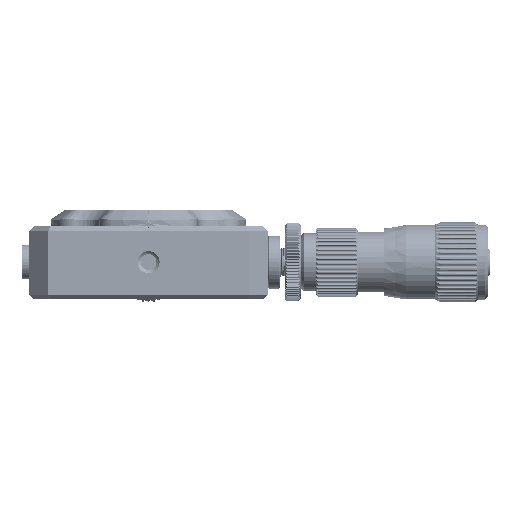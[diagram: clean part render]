
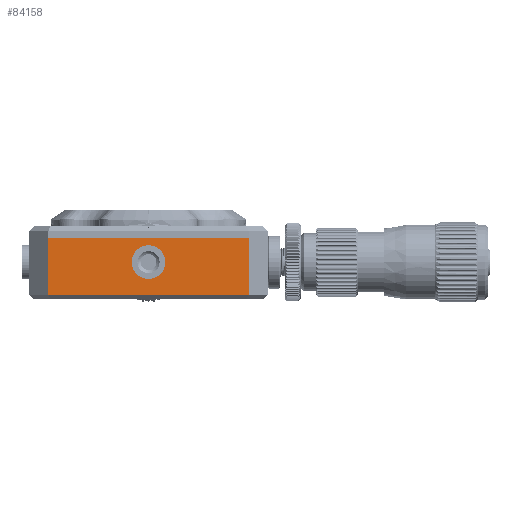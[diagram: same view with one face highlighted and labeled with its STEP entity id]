
A CAD part, front view. The second image highlights one B-rep face of the part: STEP entity #84158.
In plain terms, the highlighted planar face has unit normal (0, -1, 0).
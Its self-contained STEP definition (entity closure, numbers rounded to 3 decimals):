
#75450=DIRECTION('',(1.,0.,0.));
#75451=VECTOR('',#75450,41.53);
#75452=CARTESIAN_POINT('',(-20.765,-24.765,-5.35));
#75453=LINE('',#75452,#75451);
#75454=DIRECTION('',(0.,0.,-1.));
#75455=VECTOR('',#75454,11.7);
#75456=CARTESIAN_POINT('',(-20.765,-24.765,6.35));
#75457=LINE('',#75456,#75455);
#75458=DIRECTION('',(1.,0.,0.));
#75459=VECTOR('',#75458,41.53);
#75460=CARTESIAN_POINT('',(-20.765,-24.765,6.35));
#75461=LINE('',#75460,#75459);
#75462=DIRECTION('',(0.,0.,1.));
#75463=VECTOR('',#75462,11.7);
#75464=CARTESIAN_POINT('',(20.765,-24.765,-5.35));
#75465=LINE('',#75464,#75463);
#75466=CARTESIAN_POINT('',(0.,-24.765,1.397));
#75467=DIRECTION('',(0.,1.,0.));
#75468=DIRECTION('',(1.,0.,0.));
#75469=AXIS2_PLACEMENT_3D('',#75466,#75467,#75468);
#75471=CARTESIAN_POINT('',(0.,-24.765,1.397));
#75472=DIRECTION('',(0.,1.,0.));
#75473=DIRECTION('',(-1.,0.,0.));
#75474=AXIS2_PLACEMENT_3D('',#75471,#75472,#75473);
#83580=CARTESIAN_POINT('',(-20.765,-24.765,6.35));
#83582=VERTEX_POINT('',#83580);
#83583=CARTESIAN_POINT('',(20.765,-24.765,6.35));
#83585=VERTEX_POINT('',#83583);
#83599=CARTESIAN_POINT('',(-20.765,-24.765,-5.35));
#83601=VERTEX_POINT('',#83599);
#83605=CARTESIAN_POINT('',(20.765,-24.765,-5.35));
#83606=VERTEX_POINT('',#83605);
#84129=CARTESIAN_POINT('',(3.3,-24.765,1.397));
#84130=CARTESIAN_POINT('',(-3.3,-24.765,1.397));
#84131=VERTEX_POINT('',#84129);
#84132=VERTEX_POINT('',#84130);
#84137=CARTESIAN_POINT('',(24.765,-24.765,6.35));
#84138=DIRECTION('',(0.,1.,0.));
#84139=DIRECTION('',(0.,0.,1.));
#84140=AXIS2_PLACEMENT_3D('',#84137,#84138,#84139);
#84141=PLANE('',#84140);
#84143=ORIENTED_EDGE('',*,*,#84142,.F.);
#84145=ORIENTED_EDGE('',*,*,#84144,.F.);
#84147=ORIENTED_EDGE('',*,*,#84146,.T.);
#84149=ORIENTED_EDGE('',*,*,#84148,.F.);
#84150=EDGE_LOOP('',(#84143,#84145,#84147,#84149));
#84151=FACE_OUTER_BOUND('',#84150,.F.);
#84153=ORIENTED_EDGE('',*,*,#84152,.F.);
#84155=ORIENTED_EDGE('',*,*,#84154,.F.);
#84156=EDGE_LOOP('',(#84153,#84155));
#84157=FACE_BOUND('',#84156,.F.);
#84158=ADVANCED_FACE('',(#84151,#84157),#84141,.F.);
#75470=CIRCLE('',#75469,3.3);
#75475=CIRCLE('',#75474,3.3);
#84142=EDGE_CURVE('',#83601,#83606,#75453,.T.);
#84144=EDGE_CURVE('',#83582,#83601,#75457,.T.);
#84146=EDGE_CURVE('',#83582,#83585,#75461,.T.);
#84148=EDGE_CURVE('',#83606,#83585,#75465,.T.);
#84152=EDGE_CURVE('',#84131,#84132,#75470,.T.);
#84154=EDGE_CURVE('',#84132,#84131,#75475,.T.);
